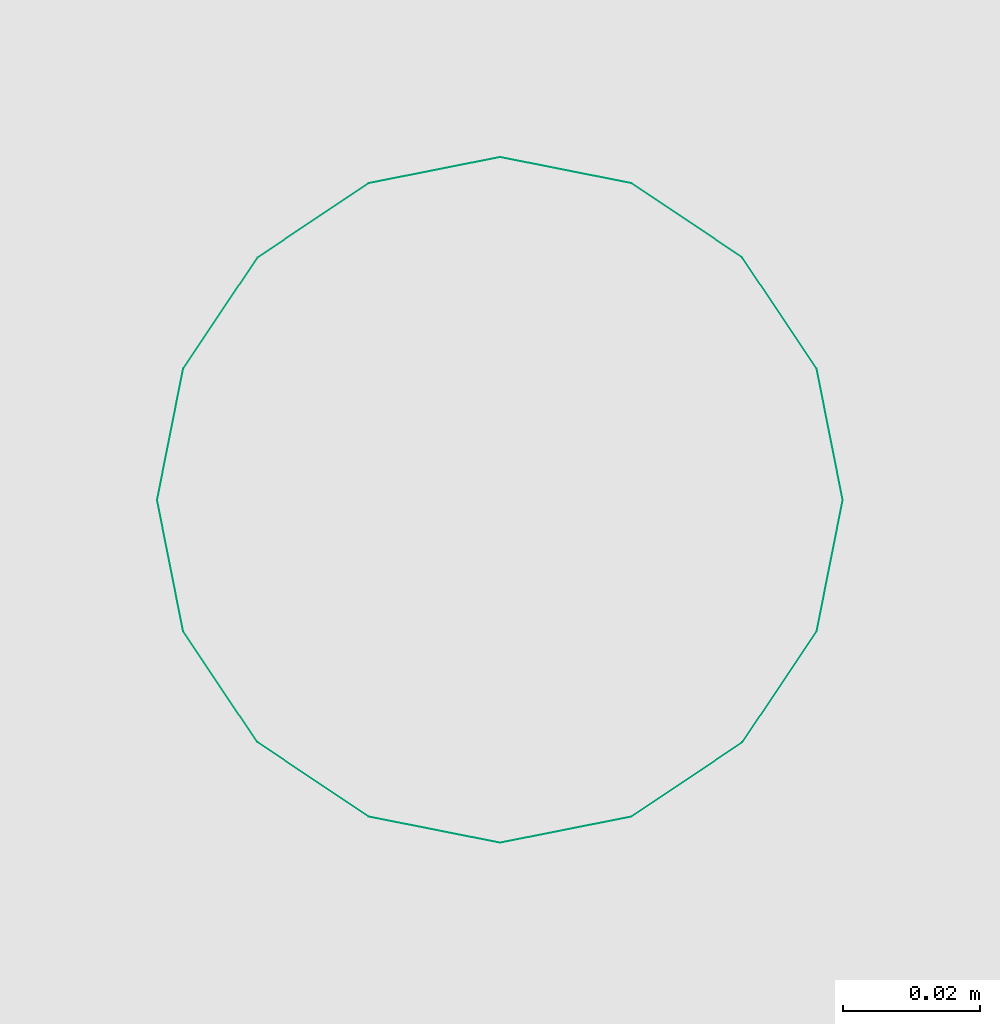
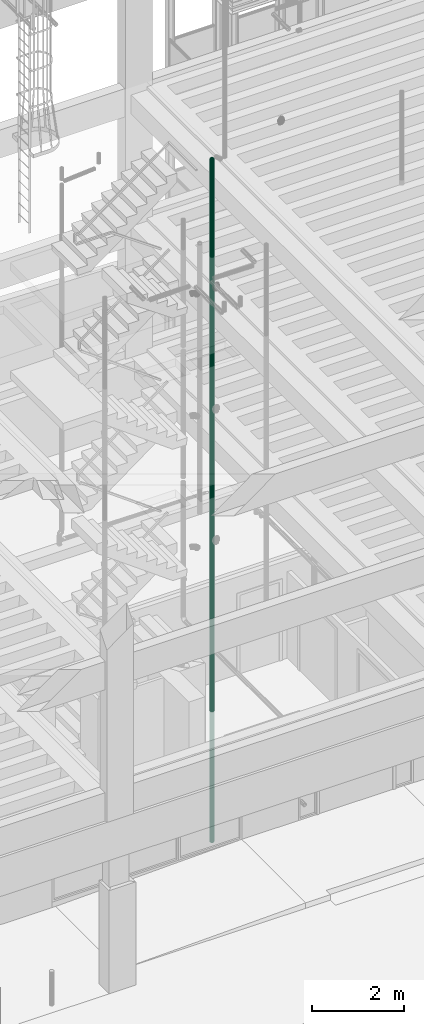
# One storey, part 60 of 108: 1 flow segment.
"""IFC2X3 building model written with IfcOpenShell, lengths in metres."""

from ifc_helpers import new_model, entity, si_unit, converted_unit, derived_unit, money_unit, direction, frame, origin_with_axes, place, context, subcontext, project, spatial, faceted_brep, material, type_object, element, save


model = new_model("IFC2X3")

# Units and contexts
model_context = context("Model", 3, precision=1e-05, world=origin_with_axes(), true_north=direction((0.0, 1.0)))
body_context = subcontext(model_context, "Body", "Model", "MODEL_VIEW", scale=1.0)
ifc_project = project(units=[si_unit("LENGTHUNIT", "METRE"), si_unit("AREAUNIT", "SQUARE_METRE"), si_unit("VOLUMEUNIT", "CUBIC_METRE"), si_unit("ABSORBEDDOSEUNIT", "GRAY"), si_unit("AMOUNTOFSUBSTANCEUNIT", "MOLE"), si_unit("DOSEEQUIVALENTUNIT", "SIEVERT"), si_unit("ELECTRICCAPACITANCEUNIT", "FARAD"), si_unit("ELECTRICCHARGEUNIT", "COULOMB"), si_unit("ELECTRICCONDUCTANCEUNIT", "SIEMENS"), si_unit("ELECTRICCURRENTUNIT", "AMPERE"), si_unit("ELECTRICRESISTANCEUNIT", "OHM"), si_unit("ELECTRICVOLTAGEUNIT", "VOLT"), si_unit("ENERGYUNIT", "JOULE"), si_unit("FORCEUNIT", "NEWTON"), si_unit("FREQUENCYUNIT", "HERTZ"), si_unit("ILLUMINANCEUNIT", "LUX"), si_unit("INDUCTANCEUNIT", "HENRY"), si_unit("LUMINOUSFLUXUNIT", "LUMEN"), si_unit("LUMINOUSINTENSITYUNIT", "CANDELA"), si_unit("MAGNETICFLUXDENSITYUNIT", "TESLA"), si_unit("MAGNETICFLUXUNIT", "WEBER"), si_unit("MASSUNIT", "GRAM"), converted_unit("PLANEANGLEUNIT", "degree", entity("IfcReal", 0.0174532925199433), si_unit("PLANEANGLEUNIT", "RADIAN"), dimensions=[0, 0, 0, 0, 0, 0, 0]), si_unit("POWERUNIT", "WATT"), si_unit("PRESSUREUNIT", "PASCAL"), si_unit("RADIOACTIVITYUNIT", "BECQUEREL"), si_unit("SOLIDANGLEUNIT", "STERADIAN"), si_unit("THERMODYNAMICTEMPERATUREUNIT", "KELVIN"), si_unit("TIMEUNIT", "SECOND"), derived_unit("ACCELERATIONUNIT", [(si_unit("LENGTHUNIT", "METRE"), 1), (si_unit("TIMEUNIT", "SECOND"), -2)]), derived_unit("ANGULARVELOCITYUNIT", [(converted_unit("PLANEANGLEUNIT", "degree", entity("IfcReal", 0.0174532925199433), si_unit("PLANEANGLEUNIT", "RADIAN"), dimensions=[0, 0, 0, 0, 0, 0, 0]), 1), (si_unit("TIMEUNIT", "SECOND"), -1)]), derived_unit("CURVATUREUNIT", [(converted_unit("PLANEANGLEUNIT", "degree", entity("IfcReal", 0.0174532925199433), si_unit("PLANEANGLEUNIT", "RADIAN"), dimensions=[0, 0, 0, 0, 0, 0, 0]), 1), (si_unit("LENGTHUNIT", "METRE"), -1)]), derived_unit("DYNAMICVISCOSITYUNIT", [(si_unit("PRESSUREUNIT", "PASCAL"), 1), (si_unit("TIMEUNIT", "SECOND"), 1)]), derived_unit("HEATFLUXDENSITYUNIT", [(si_unit("POWERUNIT", "WATT"), 1), (si_unit("LENGTHUNIT", "METRE"), -2)]), derived_unit("HEATINGVALUEUNIT", [(si_unit("ENERGYUNIT", "JOULE"), 1), (si_unit("MASSUNIT", "GRAM"), -1)]), derived_unit("INTEGERCOUNTRATEUNIT", [(si_unit("TIMEUNIT", "SECOND"), -1)]), derived_unit("IONCONCENTRATIONUNIT", [(si_unit("MASSUNIT", "GRAM"), 1), (si_unit("VOLUMEUNIT", "CUBIC_METRE"), -1)]), derived_unit("ISOTHERMALMOISTURECAPACITYUNIT", [(si_unit("VOLUMEUNIT", "CUBIC_METRE"), 1), (si_unit("MASSUNIT", "GRAM"), -1)]), derived_unit("KINEMATICVISCOSITYUNIT", [(si_unit("AREAUNIT", "SQUARE_METRE"), 1), (si_unit("TIMEUNIT", "SECOND"), -1)]), derived_unit("LINEARFORCEUNIT", [(si_unit("FORCEUNIT", "NEWTON"), 1), (si_unit("LENGTHUNIT", "METRE"), -1)]), derived_unit("LINEARMOMENTUNIT", [(si_unit("FORCEUNIT", "NEWTON"), 1), (si_unit("LENGTHUNIT", "METRE"), -1)]), derived_unit("LINEARSTIFFNESSUNIT", [(si_unit("FORCEUNIT", "NEWTON"), 1), (si_unit("LENGTHUNIT", "METRE"), -1)]), derived_unit("LINEARVELOCITYUNIT", [(si_unit("LENGTHUNIT", "METRE"), 1), (si_unit("TIMEUNIT", "SECOND"), -1)]), derived_unit("LUMINOUSINTENSITYDISTRIBUTIONUNIT", [(si_unit("LUMINOUSINTENSITYUNIT", "CANDELA"), 1), (si_unit("LUMINOUSFLUXUNIT", "LUMEN"), -1)]), derived_unit("MASSDENSITYUNIT", [(si_unit("MASSUNIT", "GRAM"), 1), (si_unit("VOLUMEUNIT", "CUBIC_METRE"), -1)]), derived_unit("MASSFLOWRATEUNIT", [(si_unit("MASSUNIT", "GRAM"), 1), (si_unit("TIMEUNIT", "SECOND"), -1)]), derived_unit("MASSPERLENGTHUNIT", [(si_unit("MASSUNIT", "GRAM"), 1), (si_unit("LENGTHUNIT", "METRE"), -1)]), derived_unit("MODULUSOFELASTICITYUNIT", [(si_unit("FORCEUNIT", "NEWTON"), 1), (si_unit("AREAUNIT", "SQUARE_METRE"), -1)]), derived_unit("MODULUSOFLINEARSUBGRADEREACTIONUNIT", [(si_unit("FORCEUNIT", "NEWTON"), 1), (si_unit("LENGTHUNIT", "METRE"), -2)]), derived_unit("MODULUSOFROTATIONALSUBGRADEREACTIONUNIT", [(si_unit("FORCEUNIT", "NEWTON"), 1), (si_unit("LENGTHUNIT", "METRE"), 1)]), derived_unit("MODULUSOFSUBGRADEREACTIONUNIT", [(si_unit("FORCEUNIT", "NEWTON"), 1), (si_unit("VOLUMEUNIT", "CUBIC_METRE"), -1)]), derived_unit("MOISTUREDIFFUSIVITYUNIT", [(si_unit("VOLUMEUNIT", "CUBIC_METRE"), 1), (si_unit("TIMEUNIT", "SECOND"), -1)]), derived_unit("MOLECULARWEIGHTUNIT", [(si_unit("MASSUNIT", "GRAM"), 1), (si_unit("AMOUNTOFSUBSTANCEUNIT", "MOLE"), -1)]), derived_unit("PLANARFORCEUNIT", [(si_unit("FORCEUNIT", "NEWTON"), 1), (si_unit("LENGTHUNIT", "METRE"), -2)]), derived_unit("ROTATIONALFREQUENCYUNIT", [(si_unit("TIMEUNIT", "SECOND"), -1)]), derived_unit("ROTATIONALMASSUNIT", [(si_unit("MASSUNIT", "GRAM"), 1), (si_unit("LENGTHUNIT", "METRE"), 2)]), derived_unit("ROTATIONALSTIFFNESSUNIT", [(si_unit("FORCEUNIT", "NEWTON"), 1), (si_unit("LENGTHUNIT", "METRE"), 1), (converted_unit("PLANEANGLEUNIT", "degree", entity("IfcReal", 0.0174532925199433), si_unit("PLANEANGLEUNIT", "RADIAN"), dimensions=[0, 0, 0, 0, 0, 0, 0]), -1)]), derived_unit("SECTIONAREAINTEGRALUNIT", [(si_unit("LENGTHUNIT", "METRE"), 5)]), derived_unit("SECTIONMODULUSUNIT", [(si_unit("LENGTHUNIT", "METRE"), 3)]), derived_unit("SHEARMODULUSUNIT", [(si_unit("FORCEUNIT", "NEWTON"), 1), (si_unit("AREAUNIT", "SQUARE_METRE"), -1)]), derived_unit("SOUNDPOWERUNIT", [(si_unit("ENERGYUNIT", "JOULE"), 1), (si_unit("TIMEUNIT", "SECOND"), -1)]), derived_unit("SPECIFICHEATCAPACITYUNIT", [(si_unit("FORCEUNIT", "NEWTON"), 1), (si_unit("MASSUNIT", "GRAM"), -1), (si_unit("THERMODYNAMICTEMPERATUREUNIT", "KELVIN"), -1)]), derived_unit("TEMPERATUREGRADIENTUNIT", [(si_unit("THERMODYNAMICTEMPERATUREUNIT", "KELVIN"), 1), (si_unit("LENGTHUNIT", "METRE"), -1)]), derived_unit("THERMALADMITTANCEUNIT", [(si_unit("POWERUNIT", "WATT"), 1), (si_unit("AREAUNIT", "SQUARE_METRE"), -1), (si_unit("THERMODYNAMICTEMPERATUREUNIT", "KELVIN"), -1)]), derived_unit("THERMALCONDUCTANCEUNIT", [(si_unit("POWERUNIT", "WATT"), 1), (si_unit("LENGTHUNIT", "METRE"), -1), (si_unit("THERMODYNAMICTEMPERATUREUNIT", "KELVIN"), -1)]), derived_unit("THERMALEXPANSIONCOEFFICIENTUNIT", [(si_unit("THERMODYNAMICTEMPERATUREUNIT", "KELVIN"), -1)]), derived_unit("THERMALRESISTANCEUNIT", [(si_unit("AREAUNIT", "SQUARE_METRE"), 1), (si_unit("POWERUNIT", "WATT"), -1)]), derived_unit("THERMALTRANSMITTANCEUNIT", [(si_unit("POWERUNIT", "WATT"), 1), (si_unit("AREAUNIT", "SQUARE_METRE"), -1), (si_unit("THERMODYNAMICTEMPERATUREUNIT", "KELVIN"), -1)]), derived_unit("TORQUEUNIT", [(si_unit("FORCEUNIT", "NEWTON"), 1), (si_unit("LENGTHUNIT", "METRE"), 1)]), derived_unit("VAPORPERMEABILITYUNIT", [(si_unit("MASSUNIT", "GRAM"), 1), (si_unit("TIMEUNIT", "SECOND"), -1)]), derived_unit("VOLUMETRICFLOWRATEUNIT", [(si_unit("VOLUMEUNIT", "CUBIC_METRE"), 1), (si_unit("TIMEUNIT", "SECOND"), -1)]), derived_unit("WARPINGCONSTANTUNIT", [(si_unit("LENGTHUNIT", "METRE"), 6)]), derived_unit("WARPINGMOMENTUNIT", [(si_unit("FORCEUNIT", "NEWTON"), 1), (si_unit("LENGTHUNIT", "METRE"), 2)]), money_unit("GBP")], contexts=[model_context])

# Site, building, storey
site_placement = place(None, origin_with_axes())
site = spatial("IfcSite", under=ifc_project, at=site_placement, Name="Site", CompositionType="ELEMENT")
building_placement = place(site_placement, origin_with_axes())
building = spatial("IfcBuilding", under=site, at=building_placement, Name="Building01", CompositionType="ELEMENT")
storey_placement = place(building_placement, origin_with_axes())
storey = spatial("IfcBuildingStorey", under=building, at=storey_placement, Name="GF", CompositionType="ELEMENT", Elevation=0.0)

# Flow segment
ifc_material = material(Name="M_BSUK_ColdWater")
pipe_segment_type = type_object("IfcPipeSegmentType", Name="M-BmpStraightpipe-DefaultPipe", PredefinedType="RIGIDSEGMENT")
flow_segment_placement = place(storey_placement, frame((16.004895, 8.014669, 14.685362), z_axis=(0.0, -1.0, 0.0), x_axis=(0.0, 0.0, -1.0)))
element("IfcFlowSegment", 1, at=flow_segment_placement, inside=storey, type_object=pipe_segment_type, material=ifc_material, Name="M-BmpStraightpipe-DefaultPipe", ObjectType="M-BmpStraightpipe-DefaultPipe", context=body_context, shape_type="Brep", body=[
    faceted_brep([(18.166017, 0.0, -0.05), (0.0, 0.0, -0.05), (0.0, 0.019134, -0.046194), (18.166017, 0.019134, -0.046194), (0.0, 0.035355, -0.035355), (18.166017, 0.035355, -0.035355), (0.0, 0.046194, -0.019134), (18.166017, 0.046194, -0.019134), (0.0, 0.05, 0.0), (18.166017, 0.05, 0.0), (0.0, 0.046194, 0.019134), (18.166017, 0.046194, 0.019134), (0.0, 0.035355, 0.035355), (18.166017, 0.035355, 0.035355), (0.0, 0.019134, 0.046194), (18.166017, 0.019134, 0.046194), (0.0, 0.0, 0.05), (18.166017, 0.0, 0.05), (0.0, -0.019134, 0.046194), (18.166017, -0.019134, 0.046194), (0.0, -0.035355, 0.035355), (18.166017, -0.035355, 0.035355), (0.0, -0.046194, 0.019134), (18.166017, -0.046194, 0.019134), (0.0, -0.05, 0.0), (18.166017, -0.05, 0.0), (0.0, -0.046194, -0.019134), (18.166017, -0.046194, -0.019134), (0.0, -0.035355, -0.035355), (18.166017, -0.035355, -0.035355), (0.0, -0.019134, -0.046194), (18.166017, -0.019134, -0.046194)], [[[0, 1, 2, 3]], [[3, 2, 4, 5]], [[5, 4, 6, 7]], [[7, 6, 8, 9]], [[9, 8, 10, 11]], [[11, 10, 12, 13]], [[13, 12, 14, 15]], [[15, 14, 16, 17]], [[17, 16, 18, 19]], [[19, 18, 20, 21]], [[21, 20, 22, 23]], [[23, 22, 24, 25]], [[25, 24, 26, 27]], [[27, 26, 28, 29]], [[29, 28, 30, 31]], [[31, 30, 1, 0]]]),
])

save(model, "model.ifc")
